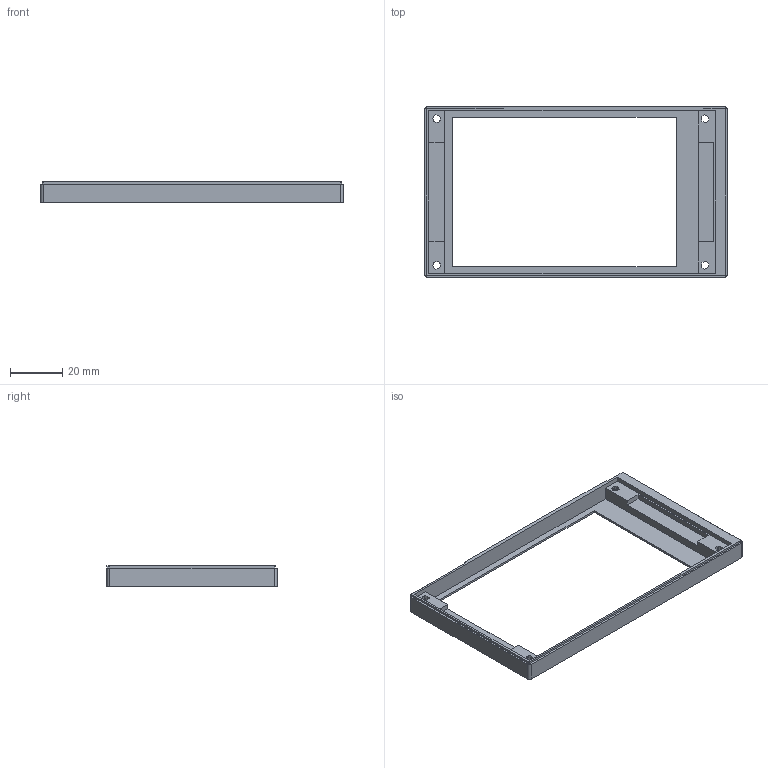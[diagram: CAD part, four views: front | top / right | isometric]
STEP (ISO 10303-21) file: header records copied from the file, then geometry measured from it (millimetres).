
FILE_DESCRIPTION(('STEP AP203'), '1');
FILE_NAME('署赅 疣磬', '', ('UNSPECIFIED'), ('UNSPECIFIED'), 'ASCON STEP Converter 1.6', 'ASCON Math Kernel', '');
FILE_SCHEMA(('CONFIG_CONTROL_DESIGN'));
Length unit declared in the file: millimetre
Bounding box: 115.5 x 65 x 7.7 mm (x, y, z)
Volume: 9775.7 mm3; surface area: 10692.3 mm2
Topology: 1 solids, 1 shells, 203 faces, 430 edges, 234 vertices
Faces by surface type: plane 195, cylinder 8
Entity records: 6797 total; most frequent: CARTESIAN_POINT 876, DIRECTION 852, ORIENTED_EDGE 824, EDGE_CURVE 412, LINE 396, VECTOR 396, VERTEX_POINT 232, AXIS2_PLACEMENT_3D 228
